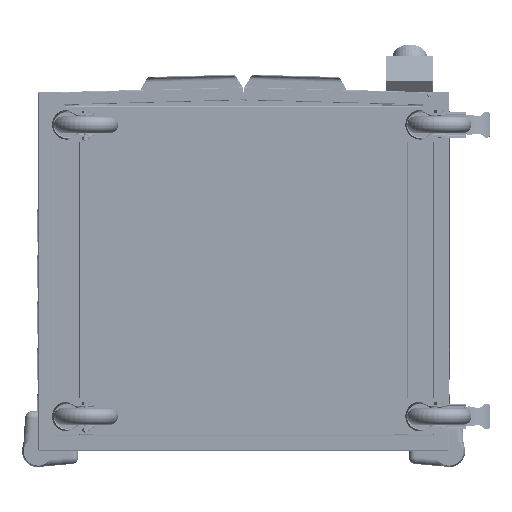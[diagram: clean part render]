
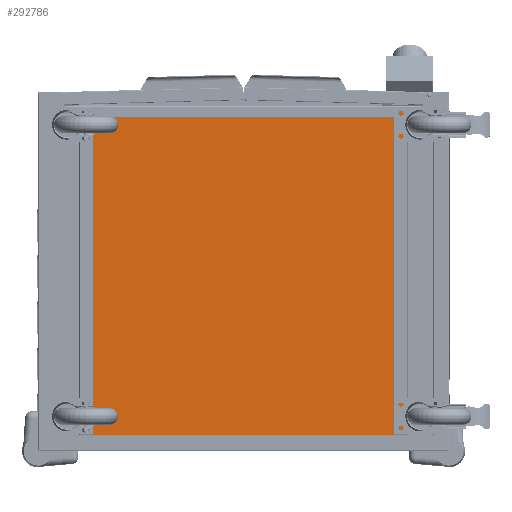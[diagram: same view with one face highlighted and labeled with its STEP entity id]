
A CAD part, front view. The second image highlights one B-rep face of the part: STEP entity #292786.
In plain terms, the highlighted planar face has unit normal (0, -1, 0).
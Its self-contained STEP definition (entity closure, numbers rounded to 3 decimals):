
#12569 = CARTESIAN_POINT ( 'NONE',  ( -369.75, -8.618, -320.15 ) ) ;
#18184 = DIRECTION ( 'NONE',  ( -1., 0., 0. ) ) ;
#38393 = ORIENTED_EDGE ( 'NONE', *, *, #398397, .F. ) ;
#59768 = CARTESIAN_POINT ( 'NONE',  ( -369.75, -8.618, -320.15 ) ) ;
#69452 = CARTESIAN_POINT ( 'NONE',  ( 369.75, -8.618, 320.15 ) ) ;
#88055 = EDGE_LOOP ( 'NONE', ( #38393, #213498, #99268, #527743 ) ) ;
#99268 = ORIENTED_EDGE ( 'NONE', *, *, #379678, .F. ) ;
#106157 = DIRECTION ( 'NONE',  ( 1., 0., 0. ) ) ;
#111799 = PLANE ( 'NONE',  #487605 ) ;
#151118 = LINE ( 'NONE', #444599, #287563 ) ;
#170214 = LINE ( 'NONE', #221485, #170476 ) ;
#170476 = VECTOR ( 'NONE', #440649, 1000. ) ;
#197360 = CARTESIAN_POINT ( 'NONE',  ( 369.75, -8.618, -320.15 ) ) ;
#207466 = VECTOR ( 'NONE', #361936, 1000. ) ;
#213498 = ORIENTED_EDGE ( 'NONE', *, *, #533735, .F. ) ;
#217951 = LINE ( 'NONE', #226351, #400557 ) ;
#221485 = CARTESIAN_POINT ( 'NONE',  ( -369.75, -8.618, 320.15 ) ) ;
#224036 = VERTEX_POINT ( 'NONE', #197360 ) ;
#226351 = CARTESIAN_POINT ( 'NONE',  ( 369.75, -8.618, -320.15 ) ) ;
#228174 = DIRECTION ( 'NONE',  ( 0., 0., -1. ) ) ;
#257621 = VERTEX_POINT ( 'NONE', #12569 ) ;
#276402 = LINE ( 'NONE', #59768, #207466 ) ;
#287563 = VECTOR ( 'NONE', #228174, 1000. ) ;
#292786 = ADVANCED_FACE ( 'NONE', ( #496288 ), #111799, .F. ) ;
#322882 = CARTESIAN_POINT ( 'NONE',  ( 0., -8.618, 0. ) ) ;
#361936 = DIRECTION ( 'NONE',  ( 0., 0., 1. ) ) ;
#379678 = EDGE_CURVE ( 'NONE', #444918, #224036, #151118, .T. ) ;
#398397 = EDGE_CURVE ( 'NONE', #257621, #513722, #276402, .T. ) ;
#400557 = VECTOR ( 'NONE', #18184, 1000. ) ;
#440649 = DIRECTION ( 'NONE',  ( 1., 0., 0. ) ) ;
#444599 = CARTESIAN_POINT ( 'NONE',  ( 369.75, -8.618, 320.15 ) ) ;
#444918 = VERTEX_POINT ( 'NONE', #69452 ) ;
#459266 = DIRECTION ( 'NONE',  ( 0., 1., 0. ) ) ;
#487605 = AXIS2_PLACEMENT_3D ( 'NONE', #322882, #459266, #106157 ) ;
#496288 = FACE_OUTER_BOUND ( 'NONE', #88055, .T. ) ;
#513722 = VERTEX_POINT ( 'NONE', #539116 ) ;
#527743 = ORIENTED_EDGE ( 'NONE', *, *, #530555, .F. ) ;
#530555 = EDGE_CURVE ( 'NONE', #513722, #444918, #170214, .T. ) ;
#533735 = EDGE_CURVE ( 'NONE', #224036, #257621, #217951, .T. ) ;
#539116 = CARTESIAN_POINT ( 'NONE',  ( -369.75, -8.618, 320.15 ) ) ;
